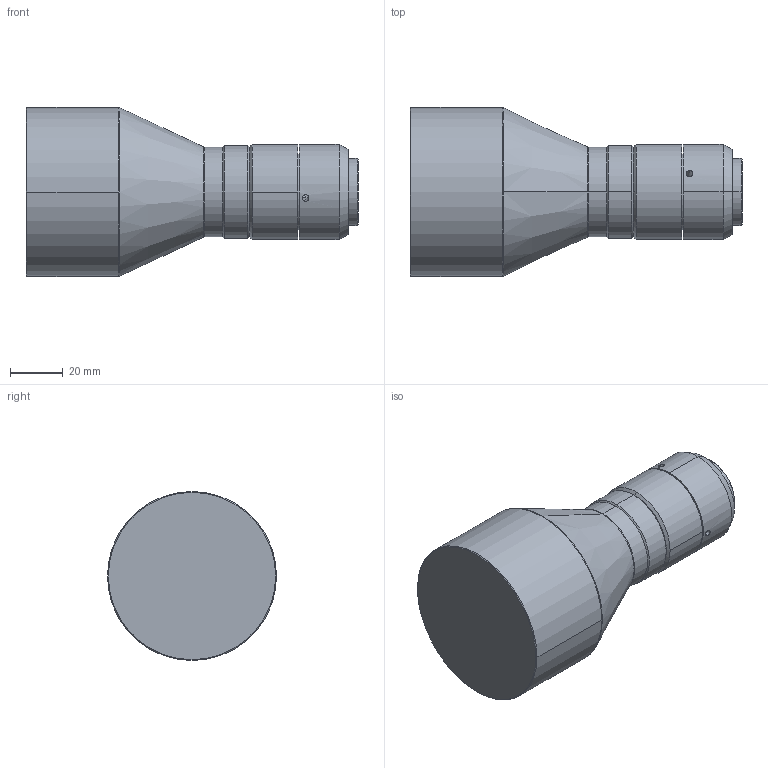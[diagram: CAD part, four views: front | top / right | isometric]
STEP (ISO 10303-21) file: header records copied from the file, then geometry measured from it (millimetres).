
FILE_DESCRIPTION (( 'STEP AP203' ), '1' );
FILE_NAME ('DTCM230-48S-AL.STEP', '2019-12-02T07:30:02', ( 'Windows 蚚誧' ), ( '' ), 'SwSTEP 2.0', 'SolidWorks 2017', '' );
FILE_SCHEMA (( 'CONFIG_CONTROL_DESIGN' ));
Length unit declared in the file: millimetre
Products named in the file (1): DTCM230-48S-AL
Bounding box: 125.7 x 64 x 64 mm (x, y, z)
Volume: 231181.6 mm3; surface area: 23936.5 mm2
Topology: 1 solids, 1 shells, 51 faces, 112 edges, 63 vertices
Faces by surface type: cylinder 22, cone 20, plane 5, bspline 4
Entity records: 1561 total; most frequent: CARTESIAN_POINT 395, DIRECTION 246, ORIENTED_EDGE 212, EDGE_CURVE 106, AXIS2_PLACEMENT_3D 102, VERTEX_POINT 63, EDGE_LOOP 57, CIRCLE 54
